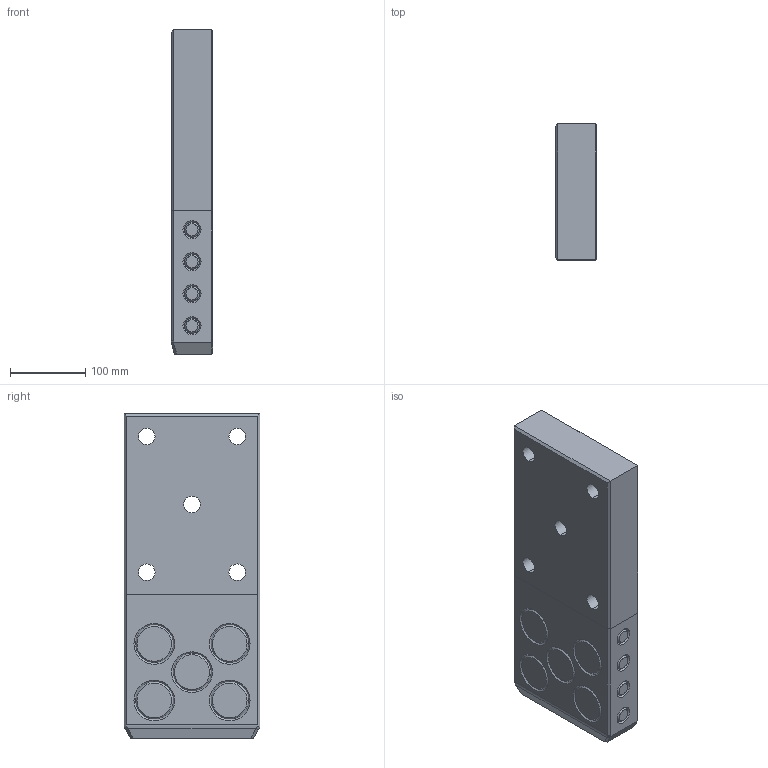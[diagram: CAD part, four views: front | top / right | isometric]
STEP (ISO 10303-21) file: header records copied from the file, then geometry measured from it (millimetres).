
FILE_DESCRIPTION((''),'2;1');
FILE_NAME('','2010-08-30T18:28:35+09:00',('misumi'),(''),'M/STEP i/f 1R2-14','CADmeister v5.1','');
FILE_SCHEMA(('AUTOMOTIVE_DESIGN'));
Length unit declared in the file: millimetre
Products named in the file (1): OG180-430
Bounding box: 55 x 180 x 430 mm (x, y, z)
Volume: 4126394.4 mm3; surface area: 236211.5 mm2
Topology: 1 solids, 1 shells, 108 faces, 234 edges, 142 vertices
Faces by surface type: cone 52, plane 39, cylinder 13, bspline 4
Entity records: 3998 total; most frequent: CARTESIAN_POINT 1541, DIRECTION 500, ORIENTED_EDGE 468, EDGE_CURVE 234, AXIS2_PLACEMENT_3D 191, VERTEX_POINT 142, EDGE_LOOP 132, LINE 118
